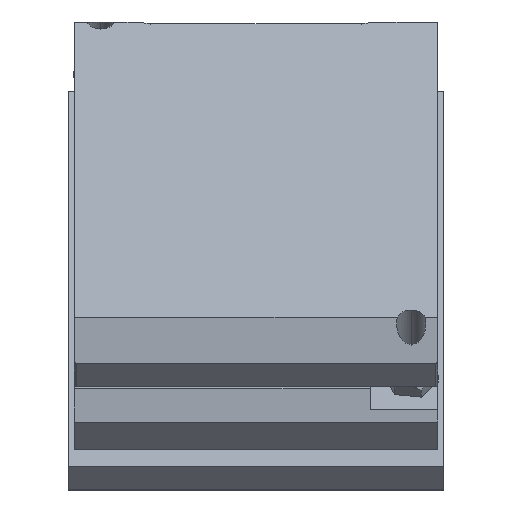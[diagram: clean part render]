
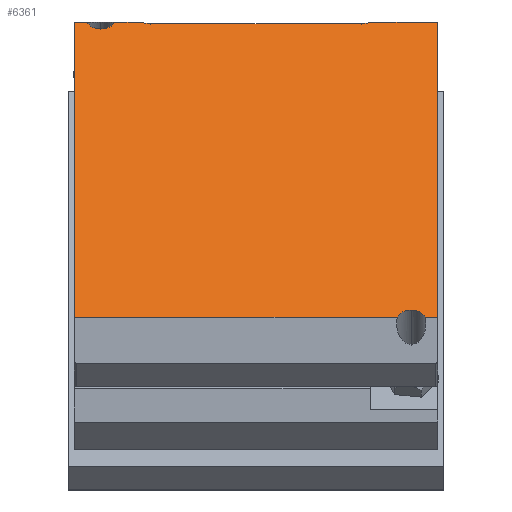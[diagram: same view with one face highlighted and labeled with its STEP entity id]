
A CAD part, top view. The second image highlights one B-rep face of the part: STEP entity #6361.
In plain terms, the highlighted planar face has unit normal (0, 0.707, 0.707).
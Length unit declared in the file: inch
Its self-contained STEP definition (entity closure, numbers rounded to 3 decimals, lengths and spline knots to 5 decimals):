
#511 = CARTESIAN_POINT ( 'NONE',  ( 1.9375, 2.99048, -0.16311 ) ) ;
#1035 = ORIENTED_EDGE ( 'NONE', *, *, #21256, .F. ) ;
#1805 = VERTEX_POINT ( 'NONE', #27471 ) ;
#2046 = EDGE_CURVE ( 'Defeatured_22_25+Defeatured_22_23+Defeatured_22_26+Defeatured_22_1', #19986, #17129, #9386, .T. ) ;
#2728 = CARTESIAN_POINT ( 'NONE',  ( -1.80369, 2.99048, -0.16311 ) ) ;
#2823 = CARTESIAN_POINT ( 'NONE',  ( 1.23397, 2.99048, -0.16311 ) ) ;
#3027 = LINE ( 'NONE', #29203, #25677 ) ;
#3130 = EDGE_LOOP ( 'NONE', ( #34369, #28350, #4758, #20728, #16170, #1035, #6447, #26198, #29305, #33793, #12309, #24187, #19015, #13219 ) ) ;
#3162 = AXIS2_PLACEMENT_3D ( 'NONE', #32723, #5605, #27431 ) ;
#3503 = EDGE_CURVE ( 'Defeatured_22_25+Defeatured_22_27+Defeatured_22_76+Defeatured_22_21', #8312, #22338, #13043, .T. ) ;
#4026 = LINE ( 'NONE', #32911, #9929 ) ;
#4376 = DIRECTION ( 'NONE',  ( 0., 0.707, 0.707 ) ) ;
#4648 = CIRCLE ( 'NONE', #11219, 0.15625 ) ;
#4758 = ORIENTED_EDGE ( 'NONE', *, *, #17862, .T. ) ;
#4926 = EDGE_CURVE ( 'Defeatured_22_60+Defeatured_22_25+Defeatured_22_27+Defeatured_22_57', #29699, #14932, #32741, .T. ) ;
#5027 = CIRCLE ( 'NONE', #9607, 0.25 ) ;
#5271 = DIRECTION ( 'NONE',  ( -1., 0., 0. ) ) ;
#5605 = DIRECTION ( 'NONE',  ( 0., 0.707, 0.707 ) ) ;
#5941 = CARTESIAN_POINT ( 'NONE',  ( 1.9375, 3.23797, -0.4106 ) ) ;
#6361 = ADVANCED_FACE ( 'Defeatured_22_25', ( #32640 ), #28857, .T. ) ;
#6447 = ORIENTED_EDGE ( 'NONE', *, *, #16812, .T. ) ;
#7434 = EDGE_CURVE ( 'Defeatured_22_25+Defeatured_22_26+Defeatured_22_21+Defeatured_22_77', #12668, #11858, #4026, .T. ) ;
#7963 = DIRECTION ( 'NONE',  ( -1., 0., 0. ) ) ;
#8312 = VERTEX_POINT ( 'NONE', #2728 ) ;
#8924 = VECTOR ( 'NONE', #20375, 39.37008 ) ;
#8947 = VECTOR ( 'NONE', #27650, 39.37008 ) ;
#9152 = AXIS2_PLACEMENT_3D ( 'NONE', #28655, #12572, #31377 ) ;
#9386 = LINE ( 'NONE', #5941, #8947 ) ;
#9607 = AXIS2_PLACEMENT_3D ( 'NONE', #32823, #14176, #16736 ) ;
#9668 = CARTESIAN_POINT ( 'NONE',  ( -1.125, 3.14958, -0.32221 ) ) ;
#9721 = DIRECTION ( 'NONE',  ( -1., 0., 0. ) ) ;
#9732 = CARTESIAN_POINT ( 'NONE',  ( -1.9375, 3.23797, -0.4106 ) ) ;
#9929 = VECTOR ( 'NONE', #19276, 39.37008 ) ;
#10154 = CARTESIAN_POINT ( 'NONE',  ( 1.656, -0.19927, 3.02665 ) ) ;
#10473 = AXIS2_PLACEMENT_3D ( 'NONE', #31139, #4376, #25950 ) ;
#11126 = VERTEX_POINT ( 'NONE', #20937 ) ;
#11219 = AXIS2_PLACEMENT_3D ( 'NONE', #10154, #26075, #15080 ) ;
#11834 = CARTESIAN_POINT ( 'NONE',  ( -1.9375, -0.16321, 2.99059 ) ) ;
#11858 = VERTEX_POINT ( 'NONE', #31935 ) ;
#11926 = LINE ( 'NONE', #9732, #16142 ) ;
#12040 = EDGE_CURVE ( 'Defeatured_22_77+Defeatured_22_25+Defeatured_22_26+Defeatured_22_26', #15522, #11858, #4648, .T. ) ;
#12309 = ORIENTED_EDGE ( 'NONE', *, *, #15926, .F. ) ;
#12572 = DIRECTION ( 'NONE',  ( 0., 0.707, 0.707 ) ) ;
#12668 = VERTEX_POINT ( 'NONE', #11834 ) ;
#12818 = CARTESIAN_POINT ( 'NONE',  ( -1.125, 2.97281, -0.14543 ) ) ;
#13043 = LINE ( 'NONE', #28713, #33664 ) ;
#13219 = ORIENTED_EDGE ( 'NONE', *, *, #25787, .F. ) ;
#14176 = DIRECTION ( 'NONE',  ( 0., 0.707, 0.707 ) ) ;
#14360 = LINE ( 'NONE', #17784, #8924 ) ;
#14932 = VERTEX_POINT ( 'NONE', #12818 ) ;
#15080 = DIRECTION ( 'NONE',  ( 0., -0.707, 0.707 ) ) ;
#15522 = VERTEX_POINT ( 'NONE', #30895 ) ;
#15926 = EDGE_CURVE ( 'Defeatured_22_57+Defeatured_22_25+Defeatured_22_60+Defeatured_22_59', #14932, #11126, #3027, .T. ) ;
#15976 = EDGE_CURVE ( 'Defeatured_22_25+Defeatured_22_1+Defeatured_22_23+Defeatured_22_59', #17129, #28638, #28660, .T. ) ;
#16142 = VECTOR ( 'NONE', #18262, 39.37008 ) ;
#16170 = ORIENTED_EDGE ( 'NONE', *, *, #12040, .F. ) ;
#16736 = DIRECTION ( 'NONE',  ( 0., 0.707, -0.707 ) ) ;
#16812 = EDGE_CURVE ( 'Defeatured_22_25+Defeatured_22_26+Defeatured_22_77+Defeatured_22_23', #1805, #19986, #14360, .T. ) ;
#17129 = VERTEX_POINT ( 'NONE', #511 ) ;
#17784 = CARTESIAN_POINT ( 'NONE',  ( 1.9375, -0.16321, 2.99059 ) ) ;
#17862 = EDGE_CURVE ( 'Defeatured_22_25+Defeatured_22_21+Defeatured_22_27+Defeatured_22_26', #22338, #12668, #11926, .T. ) ;
#18262 = DIRECTION ( 'NONE',  ( 0., -0.707, 0.707 ) ) ;
#18821 = CARTESIAN_POINT ( 'NONE',  ( 1.9375, -0.16321, 2.99059 ) ) ;
#18872 = EDGE_CURVE ( 'Defeatured_22_25+Defeatured_22_27+Defeatured_22_60+Defeatured_22_76', #29699, #31615, #26631, .T. ) ;
#18940 = CIRCLE ( 'NONE', #10473, 0.15625 ) ;
#19015 = ORIENTED_EDGE ( 'NONE', *, *, #18872, .T. ) ;
#19276 = DIRECTION ( 'NONE',  ( 1., 0., 0. ) ) ;
#19819 = VECTOR ( 'NONE', #7963, 39.37008 ) ;
#19986 = VERTEX_POINT ( 'NONE', #18821 ) ;
#20027 = AXIS2_PLACEMENT_3D ( 'NONE', #9668, #20195, #22882 ) ;
#20195 = DIRECTION ( 'NONE',  ( 0., 0.707, 0.707 ) ) ;
#20375 = DIRECTION ( 'NONE',  ( 1., 0., 0. ) ) ;
#20728 = ORIENTED_EDGE ( 'NONE', *, *, #7434, .T. ) ;
#20937 = CARTESIAN_POINT ( 'NONE',  ( 1.125, 2.97281, -0.14543 ) ) ;
#21138 = AXIS2_PLACEMENT_3D ( 'NONE', #26484, #26140, #29204 ) ;
#21256 = EDGE_CURVE ( 'Defeatured_22_77+Defeatured_22_25+Defeatured_22_26+Defeatured_22_26', #1805, #15522, #23967, .T. ) ;
#22338 = VERTEX_POINT ( 'NONE', #25375 ) ;
#22882 = DIRECTION ( 'NONE',  ( 0., 0.707, -0.707 ) ) ;
#23517 = CIRCLE ( 'NONE', #9152, 0.15625 ) ;
#23967 = CIRCLE ( 'NONE', #3162, 0.15625 ) ;
#24187 = ORIENTED_EDGE ( 'NONE', *, *, #4926, .F. ) ;
#25375 = CARTESIAN_POINT ( 'NONE',  ( -1.9375, 2.99048, -0.16311 ) ) ;
#25677 = VECTOR ( 'NONE', #29439, 39.37008 ) ;
#25743 = EDGE_CURVE ( 'Defeatured_22_76+Defeatured_22_25+Defeatured_22_27+Defeatured_22_27', #8312, #29854, #18940, .T. ) ;
#25787 = EDGE_CURVE ( 'Defeatured_22_76+Defeatured_22_25+Defeatured_22_27+Defeatured_22_27', #29854, #31615, #23517, .T. ) ;
#25950 = DIRECTION ( 'NONE',  ( 0., -0.707, 0.707 ) ) ;
#26075 = DIRECTION ( 'NONE',  ( 0., 0.707, 0.707 ) ) ;
#26140 = DIRECTION ( 'NONE',  ( 0., 0.707, 0.707 ) ) ;
#26198 = ORIENTED_EDGE ( 'NONE', *, *, #2046, .T. ) ;
#26462 = CARTESIAN_POINT ( 'NONE',  ( -1.50831, 2.99048, -0.16311 ) ) ;
#26484 = CARTESIAN_POINT ( 'NONE',  ( -1.9375, -0.4107, 3.23807 ) ) ;
#26496 = CARTESIAN_POINT ( 'NONE',  ( -1.9375, 2.99048, -0.16311 ) ) ;
#26631 = LINE ( 'NONE', #26496, #27892 ) ;
#26879 = EDGE_CURVE ( 'Defeatured_22_59+Defeatured_22_25+Defeatured_22_57+Defeatured_22_1', #11126, #28638, #5027, .T. ) ;
#27431 = DIRECTION ( 'NONE',  ( 0., -0.707, 0.707 ) ) ;
#27471 = CARTESIAN_POINT ( 'NONE',  ( 1.80369, -0.16321, 2.99059 ) ) ;
#27650 = DIRECTION ( 'NONE',  ( 0., 0.707, -0.707 ) ) ;
#27852 = CARTESIAN_POINT ( 'NONE',  ( -1.656, 2.91606, -0.08869 ) ) ;
#27892 = VECTOR ( 'NONE', #5271, 39.37008 ) ;
#28350 = ORIENTED_EDGE ( 'NONE', *, *, #3503, .T. ) ;
#28638 = VERTEX_POINT ( 'NONE', #2823 ) ;
#28655 = CARTESIAN_POINT ( 'NONE',  ( -1.656, 3.02655, -0.19917 ) ) ;
#28660 = LINE ( 'NONE', #34769, #19819 ) ;
#28713 = CARTESIAN_POINT ( 'NONE',  ( -1.9375, 2.99048, -0.16311 ) ) ;
#28857 = PLANE ( 'NONE',  #21138 ) ;
#29203 = CARTESIAN_POINT ( 'NONE',  ( -1.125, 2.97281, -0.14543 ) ) ;
#29204 = DIRECTION ( 'NONE',  ( 0., -0.707, 0.707 ) ) ;
#29305 = ORIENTED_EDGE ( 'NONE', *, *, #15976, .T. ) ;
#29439 = DIRECTION ( 'NONE',  ( 1., 0., 0. ) ) ;
#29699 = VERTEX_POINT ( 'NONE', #29760 ) ;
#29760 = CARTESIAN_POINT ( 'NONE',  ( -1.23397, 2.99048, -0.16311 ) ) ;
#29854 = VERTEX_POINT ( 'NONE', #27852 ) ;
#30895 = CARTESIAN_POINT ( 'NONE',  ( 1.656, -0.08879, 2.91616 ) ) ;
#31139 = CARTESIAN_POINT ( 'NONE',  ( -1.656, 3.02655, -0.19917 ) ) ;
#31377 = DIRECTION ( 'NONE',  ( 0., -0.707, 0.707 ) ) ;
#31615 = VERTEX_POINT ( 'NONE', #26462 ) ;
#31935 = CARTESIAN_POINT ( 'NONE',  ( 1.50831, -0.16321, 2.99059 ) ) ;
#32640 = FACE_OUTER_BOUND ( 'NONE', #3130, .T. ) ;
#32723 = CARTESIAN_POINT ( 'NONE',  ( 1.656, -0.19927, 3.02665 ) ) ;
#32741 = CIRCLE ( 'NONE', #20027, 0.25 ) ;
#32823 = CARTESIAN_POINT ( 'NONE',  ( 1.125, 3.14958, -0.32221 ) ) ;
#32911 = CARTESIAN_POINT ( 'NONE',  ( 1.9375, -0.16321, 2.99059 ) ) ;
#33664 = VECTOR ( 'NONE', #9721, 39.37008 ) ;
#33793 = ORIENTED_EDGE ( 'NONE', *, *, #26879, .F. ) ;
#34369 = ORIENTED_EDGE ( 'NONE', *, *, #25743, .F. ) ;
#34769 = CARTESIAN_POINT ( 'NONE',  ( -1.9375, 2.99048, -0.16311 ) ) ;
